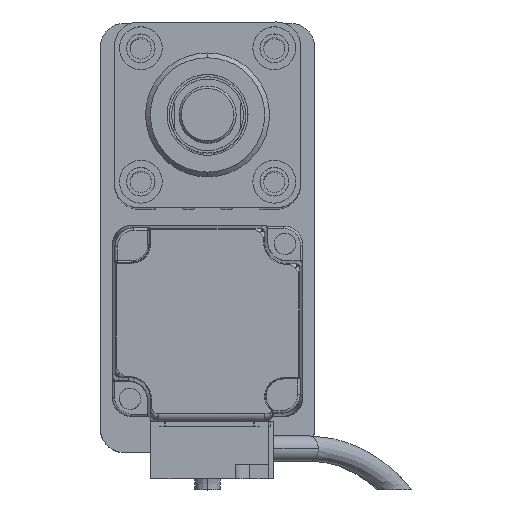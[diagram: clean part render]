
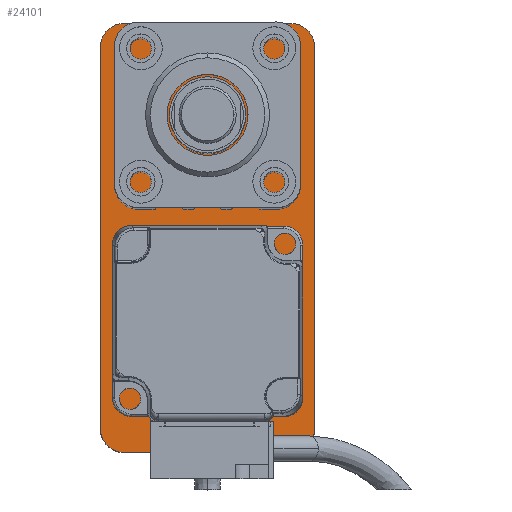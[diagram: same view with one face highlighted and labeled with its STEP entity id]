
A CAD part, top view. The second image highlights one B-rep face of the part: STEP entity #24101.
In plain terms, the highlighted planar face has unit normal (0, 0, 1).
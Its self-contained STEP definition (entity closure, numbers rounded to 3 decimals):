
#1913 = DIRECTION ( 'NONE',  ( 1., 0., 0. ) ) ;
#2143 = EDGE_CURVE ( 'NONE', #12002, #12000, #21993, .T. ) ;
#2200 = DIRECTION ( 'NONE',  ( 0., 0., 1. ) ) ;
#3075 = CARTESIAN_POINT ( 'NONE',  ( 17.5, -45., 10. ) ) ;
#3299 = PLANE ( 'NONE',  #7379 ) ;
#4192 = EDGE_CURVE ( 'NONE', #19690, #24239, #22941, .T. ) ;
#4812 = CARTESIAN_POINT ( 'NONE',  ( -22.5, -40., 10. ) ) ;
#5675 = DIRECTION ( 'NONE',  ( 1., 0., 0. ) ) ;
#5812 = CARTESIAN_POINT ( 'NONE',  ( 22.5, -40., 10. ) ) ;
#6109 = CARTESIAN_POINT ( 'NONE',  ( 17.5, 45., 10. ) ) ;
#6758 = DIRECTION ( 'NONE',  ( 0., 1., 0. ) ) ;
#7379 = AXIS2_PLACEMENT_3D ( 'NONE', #16997, #17198, #5675 ) ;
#9251 = AXIS2_PLACEMENT_3D ( 'NONE', #10946, #20235, #1913 ) ;
#10635 = DIRECTION ( 'NONE',  ( 0., 0., 1. ) ) ;
#10636 = DIRECTION ( 'NONE',  ( 1., 0., 0. ) ) ;
#10946 = CARTESIAN_POINT ( 'NONE',  ( -17.5, 40., 10. ) ) ;
#10960 = AXIS2_PLACEMENT_3D ( 'NONE', #16479, #13956, #23333 ) ;
#11238 = AXIS2_PLACEMENT_3D ( 'NONE', #27607, #2200, #18417 ) ;
#11408 = ORIENTED_EDGE ( 'NONE', *, *, #28315, .T. ) ;
#11543 = EDGE_CURVE ( 'NONE', #24239, #21680, #21698, .T. ) ;
#11600 = EDGE_CURVE ( 'NONE', #19602, #16844, #18116, .T. ) ;
#11849 = VERTEX_POINT ( 'NONE', #3075 ) ;
#12000 = VERTEX_POINT ( 'NONE', #27161 ) ;
#12002 = VERTEX_POINT ( 'NONE', #4812 ) ;
#12307 = LINE ( 'NONE', #25198, #25672 ) ;
#13049 = VECTOR ( 'NONE', #6758, 1000. ) ;
#13905 = CIRCLE ( 'NONE', #10960, 5. ) ;
#13956 = DIRECTION ( 'NONE',  ( 0., 0., 1. ) ) ;
#14618 = ORIENTED_EDGE ( 'NONE', *, *, #4192, .T. ) ;
#14697 = ORIENTED_EDGE ( 'NONE', *, *, #2143, .T. ) ;
#15093 = ORIENTED_EDGE ( 'NONE', *, *, #11600, .T. ) ;
#15284 = EDGE_LOOP ( 'NONE', ( #15093, #21326, #14618, #24644, #11408, #14697, #19615, #25362 ) ) ;
#16479 = CARTESIAN_POINT ( 'NONE',  ( 17.5, 40., 10. ) ) ;
#16702 = EDGE_CURVE ( 'NONE', #12000, #11849, #23686, .T. ) ;
#16844 = VERTEX_POINT ( 'NONE', #20792 ) ;
#16997 = CARTESIAN_POINT ( 'NONE',  ( 0., 0., 10. ) ) ;
#17198 = DIRECTION ( 'NONE',  ( 0., 0., 1. ) ) ;
#17717 = FACE_OUTER_BOUND ( 'NONE', #15284, .T. ) ;
#17823 = CARTESIAN_POINT ( 'NONE',  ( 17.5, -40., 10. ) ) ;
#18032 = DIRECTION ( 'NONE',  ( 0., -1., 0. ) ) ;
#18116 = LINE ( 'NONE', #20584, #13049 ) ;
#18251 = VECTOR ( 'NONE', #26894, 1000. ) ;
#18417 = DIRECTION ( 'NONE',  ( 1., 0., 0. ) ) ;
#18622 = CARTESIAN_POINT ( 'NONE',  ( -17.5, 45., 10. ) ) ;
#19602 = VERTEX_POINT ( 'NONE', #5812 ) ;
#19615 = ORIENTED_EDGE ( 'NONE', *, *, #16702, .T. ) ;
#19690 = VERTEX_POINT ( 'NONE', #6109 ) ;
#19930 = CARTESIAN_POINT ( 'NONE',  ( 22.5, -45., 10. ) ) ;
#20235 = DIRECTION ( 'NONE',  ( 0., 0., 1. ) ) ;
#20487 = EDGE_CURVE ( 'NONE', #16844, #19690, #13905, .T. ) ;
#20488 = CIRCLE ( 'NONE', #26483, 5. ) ;
#20584 = CARTESIAN_POINT ( 'NONE',  ( 22.5, -45., 10. ) ) ;
#20792 = CARTESIAN_POINT ( 'NONE',  ( 22.5, 40., 10. ) ) ;
#21326 = ORIENTED_EDGE ( 'NONE', *, *, #20487, .T. ) ;
#21680 = VERTEX_POINT ( 'NONE', #23295 ) ;
#21698 = CIRCLE ( 'NONE', #9251, 5. ) ;
#21993 = CIRCLE ( 'NONE', #11238, 5. ) ;
#22443 = CARTESIAN_POINT ( 'NONE',  ( 22.5, 45., 10. ) ) ;
#22941 = LINE ( 'NONE', #22443, #18251 ) ;
#23295 = CARTESIAN_POINT ( 'NONE',  ( -22.5, 40., 10. ) ) ;
#23333 = DIRECTION ( 'NONE',  ( 1., 0., 0. ) ) ;
#23686 = LINE ( 'NONE', #19930, #24067 ) ;
#24067 = VECTOR ( 'NONE', #10636, 1000. ) ;
#24101 = ADVANCED_FACE ( 'NONE', ( #17717 ), #3299, .T. ) ;
#24239 = VERTEX_POINT ( 'NONE', #18622 ) ;
#24644 = ORIENTED_EDGE ( 'NONE', *, *, #11543, .T. ) ;
#25198 = CARTESIAN_POINT ( 'NONE',  ( -22.5, -45., 10. ) ) ;
#25362 = ORIENTED_EDGE ( 'NONE', *, *, #25975, .T. ) ;
#25672 = VECTOR ( 'NONE', #18032, 1000. ) ;
#25975 = EDGE_CURVE ( 'NONE', #11849, #19602, #20488, .T. ) ;
#26483 = AXIS2_PLACEMENT_3D ( 'NONE', #17823, #10635, #29241 ) ;
#26894 = DIRECTION ( 'NONE',  ( -1., 0., 0. ) ) ;
#27161 = CARTESIAN_POINT ( 'NONE',  ( -17.5, -45., 10. ) ) ;
#27607 = CARTESIAN_POINT ( 'NONE',  ( -17.5, -40., 10. ) ) ;
#28315 = EDGE_CURVE ( 'NONE', #21680, #12002, #12307, .T. ) ;
#29241 = DIRECTION ( 'NONE',  ( 1., 0., 0. ) ) ;
